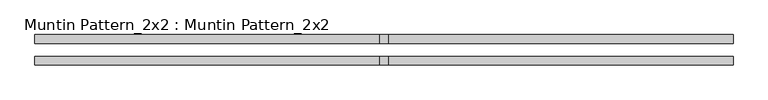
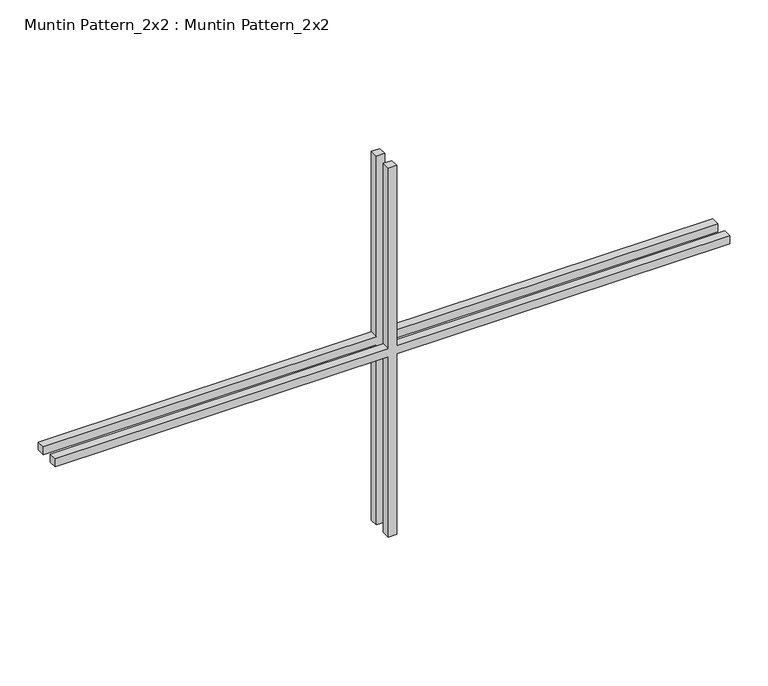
"""IFC4 building model written with IfcOpenShell, lengths in millimetres: proxy geometry, Muntin Pattern_2x2 : Muntin Pattern_2x2."""

from ifc_helpers import new_model, si_unit, frame, origin, place, context, project, spatial, polyline, outline, extrude, source, transform, mapped, element, save


def muntin_pattern_2x2_muntin_pattern_2x2_088060db(model_context):
    return source(origin(), model_context, "Body", "SweptSolid", [
        extrude(outline(polyline([(300.0375, -6.35), (300.0375, -508.0), (287.3375, -508.0), (287.3375, -6.35), (0.0, -6.35), (0.0, 6.35), (287.3375, 6.35), (287.3375, 508.0), (300.0375, 508.0), (300.0375, 6.35), (587.375, 6.35), (587.375, -6.35), (300.0375, -6.35)])), frame((0.0, 9.525, 0.0), z_axis=(0.0, 1.0, 0.0), x_axis=(0.0, 0.0, 1.0)), (0.0, 0.0, 1.0), 12.7),
        extrude(outline(polyline([(300.0375, -6.35), (300.0375, -508.0), (287.3375, -508.0), (287.3375, -6.35), (0.0, -6.35), (0.0, 6.35), (287.3375, 6.35), (287.3375, 508.0), (300.0375, 508.0), (300.0375, 6.35), (587.375, 6.35), (587.375, -6.35), (300.0375, -6.35)])), frame((0.0, -22.225, 0.0), z_axis=(0.0, 1.0, 0.0), x_axis=(0.0, 0.0, 1.0)), (0.0, 0.0, 1.0), 12.7),
    ])


if __name__ == "__main__":
    model = new_model("IFC4")
    model_context = context("Model", 3, world=origin())
    ifc_project = project(units=[si_unit("LENGTHUNIT", "METRE", prefix="MILLI")], contexts=[model_context])
    site = spatial("IfcSite", under=ifc_project)
    building = spatial("IfcBuilding", under=site)
    placement = place(None, origin())
    muntin_pattern_2x2_muntin_pattern_2x2_shape = muntin_pattern_2x2_muntin_pattern_2x2_088060db(model_context)
    element("IfcBuildingElementProxy", 1, Name="Muntin Pattern_2x2 : Muntin Pattern_2x2", ObjectType="Muntin Pattern_2x2 : Muntin Pattern_2x2", at=placement, inside=building, context=model_context, shape_type="MappedRepresentation", body=[
        mapped(muntin_pattern_2x2_muntin_pattern_2x2_shape, transform((0.0, 0.0, 0.0), x_axis=(1.0, 0.0, 0.0), y_axis=(0.0, 1.0, 0.0), z_axis=(0.0, 0.0, 1.0))),
    ])
    save(model, "model.ifc")
